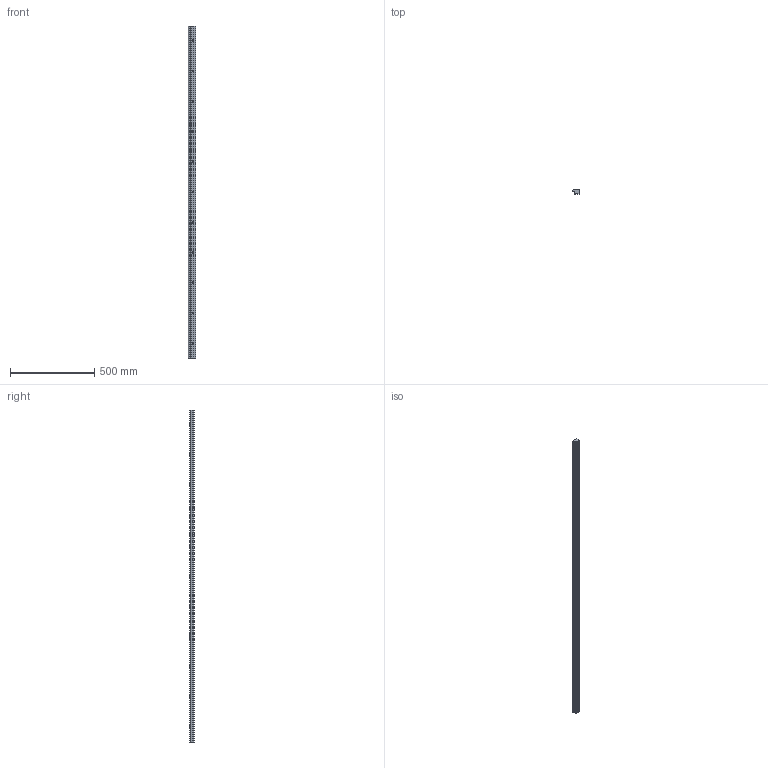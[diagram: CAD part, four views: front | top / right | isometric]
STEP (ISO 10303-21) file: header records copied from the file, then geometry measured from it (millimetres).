
FILE_DESCRIPTION(('STEP AP203'),'1');
FILE_NAME('slide_nlel1976p2.stp','2022-07-04T01:24:03',('TraceParts'),('TraceParts S.A.'),'Spatial InterOp 3D',' ',' ');
FILE_SCHEMA(('CONFIG_CONTROL_DESIGN'));
Length unit declared in the file: millimetre
Products named in the file (1): 1
Bounding box: 42.8 x 24.41 x 1976 mm (x, y, z)
Volume: 1479350.3 mm3; surface area: 279765.8 mm2
Topology: 1 solids, 1 shells, 78 faces, 195 edges, 130 vertices
Faces by surface type: cylinder 54, plane 24
Entity records: 2475 total; most frequent: DIRECTION 461, CARTESIAN_POINT 404, ORIENTED_EDGE 390, EDGE_CURVE 195, AXIS2_PLACEMENT_3D 187, VERTEX_POINT 130, EDGE_LOOP 111, CIRCLE 108
